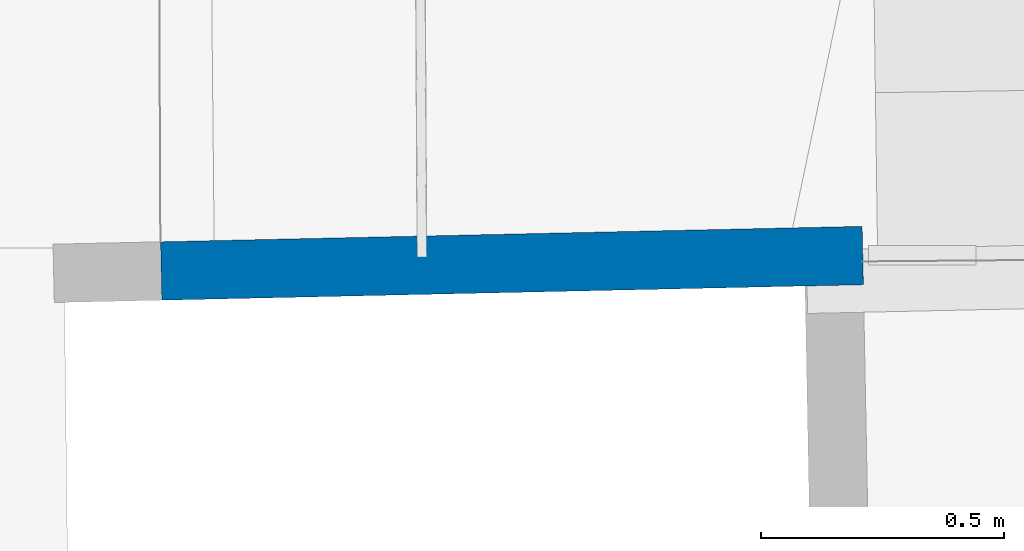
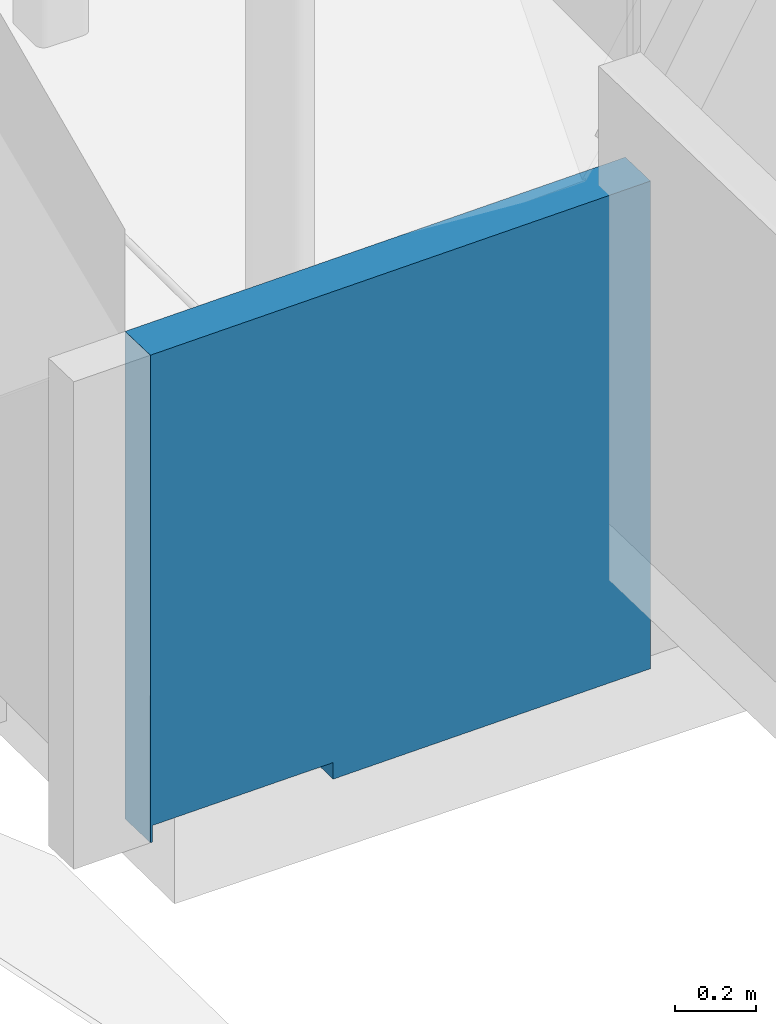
# One storey, part 21 of 39: 1 wall.
"""IFC2X3 building model written with IfcOpenShell, lengths in centimetres."""

from ifc_helpers import new_model, entity, si_unit, converted_unit, direction, frame, origin, origin_with_axes, place, context, subcontext, project, spatial, faceted_brep, material, layer, layer_set, layer_usage, type_object, element, save


model = new_model("IFC2X3")

# Units and contexts
model_context = context("Model", 3, precision=0.0001, world=origin(), true_north=direction((0.225632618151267, 0.974212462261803, 0.0)))
body_context = subcontext(model_context, "Body", "Model", "MODEL_VIEW")
ifc_project = project(units=[si_unit("LENGTHUNIT", "METRE", prefix="CENTI"), si_unit("AREAUNIT", "SQUARE_METRE", prefix="CENTI"), si_unit("VOLUMEUNIT", "CUBIC_METRE", prefix="CENTI"), converted_unit("PLANEANGLEUNIT", "DEGREE", entity("IfcRatioMeasure", 0.0174532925), si_unit("PLANEANGLEUNIT", "RADIAN"), dimensions=[0, 0, 0, 0, 0, 0, 0])], contexts=[model_context])

# Site, building, storey
site_placement = place(None, origin_with_axes())
site = spatial("IfcSite", under=ifc_project, at=site_placement, Name="Default Site", CompositionType="ELEMENT")
building_placement = place(site_placement, origin_with_axes())
building = spatial("IfcBuilding", under=site, at=building_placement, Name="Default Building", CompositionType="ELEMENT")
storey_placement = place(building_placement, frame((0.0, 0.0, 1088.91037418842), z_axis=(0.0, 0.0, 1.0), x_axis=(1.0, 0.0, 0.0)))
storey = spatial("IfcBuildingStorey", under=building, at=storey_placement, Name="Mezzanine", CompositionType="ELEMENT", Elevation=1088.91037418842)

# Wall
ifc_material = material(Name="<aucun>")
ifc_layer = layer(ifc_material, 12.0)
ifc_layer_set = layer_set([ifc_layer], Name="default")
ifc_layer_usage = layer_usage(ifc_layer_set, "AXIS2", "POSITIVE", -6.0)
wall_type = type_object("IfcWallType", Name="default 120", PredefinedType="NOTDEFINED", material=ifc_layer_set)
wall_placement = place(storey_placement, frame((238.941368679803, -356.384532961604, 4.79616346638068e-12), z_axis=(0.0, 0.0, 1.0), x_axis=(0.999756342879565, 0.0220738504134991, 0.0)))
element("IfcWall", 1, at=wall_placement, inside=storey, type_object=wall_type, material=ifc_layer_usage, Name="Enveloppe 223005", context=body_context, shape_type="Brep", body=[
    faceted_brep([(0.782553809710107, 6.00000659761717, 1.47581051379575e-05), (0.107259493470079, 6.00000659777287, 1.47581051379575e-05), (0.107259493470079, 6.00000659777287, 5.532756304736), (0.782553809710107, 6.00000659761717, 5.532756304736), (0.782553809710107, 6.00000659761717, 5.00003383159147), (0.782553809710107, 6.00000659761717, 1.99996516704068), (13.8141837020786, 6.00000036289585, 5.00003383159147), (0.782553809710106, 6.00000036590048, 5.00003383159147), (0.782553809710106, 6.00000036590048, 5.532756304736), (13.8141837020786, 6.00000036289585, 5.532756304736), (0.782553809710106, 6.00000036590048, 44.3096308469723), (13.8141837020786, 6.00000036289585, 44.3096308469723), (0.107259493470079, 6.00000659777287, 44.3096308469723), (0.782553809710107, 6.00000659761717, 44.3096308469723), (13.8141837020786, 6.00000036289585, 47.000041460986), (0.782553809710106, 6.00000036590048, 47.000041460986), (0.782553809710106, 6.00000036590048, 125.555625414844), (13.8141837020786, 6.00000036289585, 125.555625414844), (13.8141837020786, 6.00000036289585, 50.0000147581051), (0.782553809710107, 6.00000659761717, 47.000041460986), (0.107259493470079, 6.00000659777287, 47.000041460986), (0.107259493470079, 6.00000659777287, 125.555625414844), (0.782553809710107, 6.00000659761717, 125.555625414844), (0.782553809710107, 6.00000659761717, 47.999968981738), (13.8141837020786, 6.00000036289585, 130.650630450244), (0.782553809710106, 6.00000036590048, 130.650630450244), (0.782553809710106, 6.00000036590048, 141.202369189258), (13.8141837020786, 6.00000036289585, 141.202369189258), (0.782553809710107, 6.00000659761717, 130.650630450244), (0.107259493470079, 6.00000659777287, 130.650630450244), (0.107259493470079, 6.00000659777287, 141.202369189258), (0.782553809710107, 6.00000659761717, 141.202369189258), (0.107253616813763, -6.00011106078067, 1.47581051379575e-05), (0.782550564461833, -6.00011106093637, 1.47581051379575e-05), (0.782550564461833, -6.00011106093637, 4.35325191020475), (0.107253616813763, -6.00011106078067, 4.35325191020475), (0.107253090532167, -6.00013489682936, 1.47581051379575e-05), (0.782571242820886, -6.00013489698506, 1.47581051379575e-05), (0.782571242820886, -6.00013489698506, 1.99996516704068), (0.107253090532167, -6.00013489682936, 1.99996516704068), (0.782571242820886, -6.00013489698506, 4.35325191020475), (0.107253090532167, -6.00013489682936, 4.35325191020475), (0.107253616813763, -6.00011106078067, 1.99996516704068), (0.782550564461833, -6.00011106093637, 1.99996516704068), (0.782550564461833, -6.00011106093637, 5.00003383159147), (0.107253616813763, -6.00011106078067, 5.00003383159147), (0.782550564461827, -6.00013489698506, 4.35325191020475), (0.782550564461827, -6.00013489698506, 5.00003383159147), (0.107253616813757, -6.00013489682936, 5.00003383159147), (0.782550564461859, -5.99999706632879, 5.532756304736), (0.107256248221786, -5.99999706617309, 5.532756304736), (0.107253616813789, -5.99999706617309, 5.00003383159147), (0.782550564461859, -5.99999706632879, 5.00003383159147), (13.8141804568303, -5.99999706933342, 5.00003383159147), (13.8141804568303, -5.99999706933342, 5.532756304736), (13.8141804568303, -5.99999706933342, 44.3096308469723), (0.782550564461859, -5.99999706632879, 44.3096308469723), (0.107256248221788, -5.9999918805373, 5.532756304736), (0.78255056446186, -5.999991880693, 5.532756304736), (0.78255056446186, -5.999991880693, 44.3096308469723), (0.107256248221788, -5.9999918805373, 44.3096308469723), (0.782550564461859, -5.99999706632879, 47.000041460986), (13.8141804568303, -5.99999706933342, 47.000041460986), (13.8141804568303, -5.99999706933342, 50.0000147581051), (13.8141804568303, -5.99999706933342, 125.555625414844), (0.782550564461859, -5.99999706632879, 125.555625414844), (0.107256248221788, -5.9999918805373, 47.000041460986), (0.78255056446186, -5.999991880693, 47.000041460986), (0.78255056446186, -5.999991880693, 47.999968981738), (0.78255056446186, -5.999991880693, 125.555625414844), (0.107256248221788, -5.9999918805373, 125.555625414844), (0.782550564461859, -5.99999706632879, 130.650630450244), (13.8141804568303, -5.99999706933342, 130.650630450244), (13.8141804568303, -5.99999706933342, 141.202369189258), (0.782550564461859, -5.99999706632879, 141.202369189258), (0.107256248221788, -5.9999918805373, 130.650630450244), (0.78255056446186, -5.999991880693, 130.650630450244), (0.78255056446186, -5.999991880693, 141.202369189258), (0.107256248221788, -5.9999918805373, 141.202369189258), (0.782550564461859, -5.99999706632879, 1.47581051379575e-05), (0.107256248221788, -5.9999918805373, 1.47581051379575e-05), (0.10725949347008, 6.00001178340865, 1.47581051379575e-05), (0.107259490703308, -5.9999918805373, 1.47581051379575e-05), (0.107259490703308, -5.9999918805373, 1.99996516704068), (0.107259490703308, -5.9999918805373, 4.35325191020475), (0.107259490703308, -5.9999918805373, 5.00003383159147), (0.107259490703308, -5.9999918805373, 5.532756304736), (0.10725949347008, 6.00001178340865, 5.532756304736), (0.782550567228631, 6.00000659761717, 1.47581051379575e-05), (0.782550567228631, 6.00000659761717, 1.99996516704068), (0.782550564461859, -5.99999706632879, 1.99996516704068), (0.782550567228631, 6.00000659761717, 5.00003383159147), (13.8141804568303, -6.00000330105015, 5.00003383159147), (13.8141804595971, 6.00000036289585, 5.00003383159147), (13.8141804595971, 6.00000036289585, 5.532756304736), (13.8141804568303, -6.00000330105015, 5.532756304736), (13.8141804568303, -6.00000330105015, 44.3096308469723), (13.8141804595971, 6.00000036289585, 44.3096308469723), (0.10725949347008, 6.00001178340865, 44.3096308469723), (0.107259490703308, -5.9999918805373, 44.3096308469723), (13.8141804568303, -6.00000330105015, 47.000041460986), (13.8141804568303, -6.00000330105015, 125.555625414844), (13.8141836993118, -6.00000330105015, 50.0000147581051), (13.8141836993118, -6.00000330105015, 47.000041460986), (13.8141836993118, -6.00000330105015, 125.555625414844), (0.10725949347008, 6.00001178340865, 47.000041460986), (0.10725949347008, 6.00001178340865, 125.555625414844), (0.107259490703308, -5.9999918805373, 47.000041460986), (0.107259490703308, -5.9999918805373, 125.555625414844), (13.8141804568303, -6.00000330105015, 130.650630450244), (13.8141804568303, -6.00000330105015, 141.202369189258), (13.8141804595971, 6.00000036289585, 130.650630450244), (13.8141804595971, 6.00000036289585, 141.202369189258), (0.10725949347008, 6.00001178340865, 130.650630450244), (0.10725949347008, 6.00001178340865, 141.202369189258), (0.107259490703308, -5.9999918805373, 130.650630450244), (0.107259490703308, -5.9999918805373, 141.202369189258)], [[[0, 1, 2, 3, 4, 5]], [[6, 7, 8, 9]], [[9, 8, 10, 11]], [[3, 2, 12, 13]], [[14, 15, 16, 17, 18]], [[19, 20, 21, 22, 23]], [[24, 25, 26, 27]], [[28, 29, 30, 31]], [[32, 33, 34, 35]], [[36, 37, 38, 39]], [[36, 37, 40, 41]], [[42, 43, 44, 45]], [[41, 46, 47, 48]], [[49, 50, 51, 52]], [[52, 53, 54, 49]], [[49, 54, 55, 56]], [[57, 58, 59, 60]], [[61, 62, 63, 64, 65]], [[66, 67, 68, 69, 70]], [[71, 72, 73, 74]], [[75, 76, 77, 78]], [[79, 80, 81, 0]], [[81, 82, 83, 84, 85, 86, 87]], [[79, 88, 89, 90]], [[90, 89, 91, 52]], [[6, 92, 52, 4]], [[92, 93, 94, 95]], [[13, 56, 96, 11]], [[95, 94, 97, 96]], [[60, 56, 13, 98]], [[87, 86, 99, 98]], [[14, 100, 61, 19]], [[22, 65, 101, 17]], [[18, 102, 103, 14]], [[17, 104, 102, 18]], [[105, 19, 61, 66]], [[70, 65, 22, 106]], [[105, 107, 108, 106]], [[24, 109, 71, 28]], [[31, 74, 110, 27]], [[109, 111, 112, 110]], [[113, 28, 71, 75]], [[78, 74, 31, 114]], [[113, 115, 116, 114]]]),
    faceted_brep([(144.337672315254, 5.99998987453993, 1.47581051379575e-05), (52.9090739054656, 5.9999898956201, 1.47581051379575e-05), (52.9090739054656, 5.9999898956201, 1.99996516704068), (52.9090739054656, 5.9999898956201, 5.00003383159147), (52.9090739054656, 5.9999898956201, 5.532756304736), (144.337672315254, 5.99998987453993, 5.532756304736), (52.9090739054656, 6.00000549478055, 5.00003383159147), (13.8141837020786, 6.00000550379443, 5.00003383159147), (13.8141837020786, 6.00000550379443, 5.532756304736), (52.9090739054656, 6.00000549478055, 5.532756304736), (13.8141837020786, 5.99998990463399, 5.532756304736), (13.8141837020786, 5.99998990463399, 44.3096308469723), (13.8141837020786, 5.99998990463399, 47.000041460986), (144.337672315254, 5.99998987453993, 47.000041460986), (0.782553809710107, 6.00000659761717, 44.3096308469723), (0.107259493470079, 6.00000659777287, 44.3096308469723), (0.107259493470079, 6.00000659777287, 47.000041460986), (0.782553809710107, 6.00000659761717, 47.000041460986), (13.8141837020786, 6.00000036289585, 44.3096308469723), (0.782553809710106, 6.00000036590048, 44.3096308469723), (0.782553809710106, 6.00000036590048, 47.000041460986), (0.782553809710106, 6.00000036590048, 47.999968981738), (13.8141837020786, 6.00000036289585, 47.999968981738), (13.8141837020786, 6.00000036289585, 47.000041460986), (13.8141837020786, 5.99998990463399, 47.999968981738), (13.8141837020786, 5.99998990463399, 50.0000147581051), (144.337672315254, 5.99998987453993, 50.0000147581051), (13.8141837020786, 5.99998990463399, 125.555625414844), (13.8141837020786, 5.99998990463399, 128.972926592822), (144.337672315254, 5.99998987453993, 128.972926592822), (0.782553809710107, 6.00000659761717, 125.555625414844), (0.107259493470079, 6.00000659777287, 125.555625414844), (0.107259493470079, 6.00000659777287, 128.972926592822), (0.782553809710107, 6.00000659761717, 128.972926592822), (13.8141837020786, 6.00000036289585, 125.555625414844), (0.782553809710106, 6.00000036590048, 125.555625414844), (0.782553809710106, 6.00000036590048, 128.972926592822), (13.8141837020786, 6.00000036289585, 128.972926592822), (0.107259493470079, 6.00000659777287, 130.650630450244), (0.782553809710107, 6.00000659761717, 130.650630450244), (0.782553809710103, 5.99998990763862, 128.972926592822), (0.782553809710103, 5.99998990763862, 130.650630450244), (0.782553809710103, 5.99998990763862, 141.202369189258), (0.782553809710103, 5.99998990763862, 146.702018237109), (144.337672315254, 5.99998987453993, 146.702018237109), (0.782553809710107, 6.00000659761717, 141.202369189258), (0.107259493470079, 6.00000659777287, 141.202369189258), (0.107259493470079, 6.00000659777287, 146.702018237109), (0.782553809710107, 6.00000659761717, 146.702018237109), (52.7853248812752, -6.00000843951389, 1.47581051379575e-05), (144.337669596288, -6.00000846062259, 1.47581051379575e-05), (144.337669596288, -6.00000846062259, 5.532756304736), (52.7853248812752, -6.00000843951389, 5.532756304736), (52.7853248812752, -6.00000843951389, 5.00003383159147), (52.7853248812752, -6.00000843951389, 1.99996516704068), (13.8141804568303, -6.00000330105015, 5.00003383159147), (52.7853248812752, -6.0000033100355, 5.00003383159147), (52.7853248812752, -6.0000033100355, 5.532756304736), (13.8141804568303, -6.00000330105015, 5.532756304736), (144.337669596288, -6.0000033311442, 5.532756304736), (144.337669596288, -6.0000033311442, 47.000041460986), (144.323742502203, -6.00000333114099, 47.000041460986), (13.8141804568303, -6.00000330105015, 47.000041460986), (13.8141804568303, -6.00000330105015, 44.3096308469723), (0.107256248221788, -5.9999918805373, 44.3096308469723), (0.78255056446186, -5.999991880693, 44.3096308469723), (0.78255056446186, -5.999991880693, 47.000041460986), (0.107256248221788, -5.9999918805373, 47.000041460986), (0.782550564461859, -5.99999706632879, 44.3096308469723), (13.8141804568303, -5.99999706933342, 44.3096308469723), (13.8141804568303, -5.99999706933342, 47.000041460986), (13.8141804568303, -5.99999706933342, 47.999968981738), (0.782550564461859, -5.99999706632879, 47.999968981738), (0.782550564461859, -5.99999706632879, 47.000041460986), (144.323742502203, -5.99999247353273, 47.000041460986), (144.337669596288, -5.99999247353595, 47.000041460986), (144.337669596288, -5.99999247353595, 47.999968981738), (144.323742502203, -5.99999247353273, 47.999968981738), (144.337685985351, -1.27815193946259, 47.000041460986), (144.337755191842, -1.25468728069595, 47.000041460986), (144.337755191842, -1.25468728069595, 50.0000147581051), (144.337685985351, -1.27815193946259, 50.0000147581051), (144.337685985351, -1.27815193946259, 47.999968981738), (132.323691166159, -5.99998817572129, 47.999968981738), (144.323742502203, -5.99998817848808, 47.999968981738), (144.323742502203, -5.99998817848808, 50.0000147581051), (132.323691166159, -5.99998817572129, 50.0000147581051), (144.323759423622, -5.99999252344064, 50.0000147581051), (144.323759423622, -5.99999252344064, 47.999968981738), (132.323691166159, -5.99999247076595, 47.999968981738), (132.323691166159, -5.99999247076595, 50.0000147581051), (13.8141804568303, -5.99999244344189, 50.0000147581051), (13.8141804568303, -5.99999244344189, 47.999968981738), (13.8141804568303, -5.99999244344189, 47.000041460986), (144.323742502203, -5.99998817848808, 128.972926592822), (132.323691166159, -5.99998817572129, 128.972926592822), (144.323742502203, -5.99999247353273, 50.0000147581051), (144.337669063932, -1.27815188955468, 50.0000147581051), (144.337738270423, -1.25468723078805, 50.0000147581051), (144.337738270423, -1.25468723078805, 128.972926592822), (144.323742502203, -5.99999247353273, 128.972926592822), (13.8141804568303, -5.99998814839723, 128.972926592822), (13.8141804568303, -5.99998814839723, 125.555625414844), (13.8141804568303, -5.99998814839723, 50.0000147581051), (0.107256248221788, -5.9999918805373, 125.555625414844), (0.78255056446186, -5.999991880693, 125.555625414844), (0.78255056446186, -5.999991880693, 128.972926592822), (0.107256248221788, -5.9999918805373, 128.972926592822), (0.782550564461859, -5.99999706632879, 125.555625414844), (13.8141804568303, -5.99999706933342, 125.555625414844), (13.8141804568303, -5.99999706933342, 128.972926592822), (0.782550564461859, -5.99999706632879, 128.972926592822), (0.78255056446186, -5.999991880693, 130.650630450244), (0.107256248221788, -5.9999918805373, 130.650630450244), (144.323742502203, -5.99998817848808, 146.702018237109), (132.323691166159, -5.99998817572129, 146.702018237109), (144.337738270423, -1.25468723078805, 146.702018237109), (144.323742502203, -5.99999247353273, 146.702018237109), (0.782550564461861, -5.9999881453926, 146.702018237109), (0.782550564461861, -5.9999881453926, 141.202369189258), (0.782550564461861, -5.9999881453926, 130.650630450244), (0.782550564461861, -5.9999881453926, 128.972926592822), (0.107256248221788, -5.9999918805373, 141.202369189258), (0.78255056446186, -5.999991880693, 141.202369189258), (0.78255056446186, -5.999991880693, 146.702018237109), (0.107256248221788, -5.9999918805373, 146.702018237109), (144.337669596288, -5.99998995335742, 1.47581051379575e-05), (52.9090739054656, 6.00000549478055, 1.47581051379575e-05), (144.337669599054, 5.99998987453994, 1.47581051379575e-05), (144.337669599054, 5.99998987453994, 5.532756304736), (144.337669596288, -5.99998995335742, 5.532756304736), (52.909076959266, 6.00000546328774, 5.00003383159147), (52.909076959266, 6.00000546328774, 1.99996516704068), (52.909076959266, 6.00000546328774, 1.47581051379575e-05), (13.8141837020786, 6.00000036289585, 5.00003383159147), (13.8141836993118, -6.00000330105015, 5.00003383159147), (13.8141836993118, -6.00000330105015, 5.532756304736), (13.8141837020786, 6.00000036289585, 5.532756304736), (144.337669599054, 5.99998987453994, 47.000041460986), (144.337669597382, -1.2546856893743, 47.000041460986), (144.337669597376, -1.27815193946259, 47.000041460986), (144.337669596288, -5.99998995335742, 47.000041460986), (13.8141804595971, 6.00000036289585, 44.3096308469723), (13.8141804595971, 6.00000036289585, 5.532756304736), (0.10725949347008, 6.00001178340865, 44.3096308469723), (0.10725949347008, 6.00001178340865, 47.000041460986), (0.107259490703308, -5.9999918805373, 44.3096308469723), (0.107259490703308, -5.9999918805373, 47.000041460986), (13.8141804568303, -6.00000330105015, 47.999968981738), (0.782553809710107, 6.00000659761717, 47.999968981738), (0.782550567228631, 6.00000659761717, 47.999968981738), (0.782550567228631, 6.00000659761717, 47.000041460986), (144.337669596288, -5.99998995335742, 47.999968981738), (144.337669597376, -1.27815193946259, 47.999968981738), (144.337750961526, -1.25468726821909, 47.000041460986), (144.337681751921, 5.99998987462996, 47.000041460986), (144.337681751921, 5.99998987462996, 50.0000147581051), (144.337750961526, -1.25468726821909, 50.0000147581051), (13.8141836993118, -6.00000330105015, 47.000041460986), (13.8141836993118, -6.00000330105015, 50.0000147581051), (13.8141837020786, 6.00000036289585, 50.0000147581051), (144.337681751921, 5.99998987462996, 128.972926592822), (144.337750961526, -1.25468726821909, 128.972926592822), (13.8141804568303, -6.00000330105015, 125.555625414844), (13.8141804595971, 6.00000036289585, 125.555625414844), (13.8141804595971, 6.00000036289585, 50.0000147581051), (13.8141804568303, -6.00000330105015, 50.0000147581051), (0.10725949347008, 6.00001178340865, 125.555625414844), (0.107259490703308, -5.9999918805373, 125.555625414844), (0.107259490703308, -5.9999918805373, 128.972926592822), (0.10725949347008, 6.00001178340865, 128.972926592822), (0.782550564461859, -5.99999706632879, 130.650630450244), (0.10725949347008, 6.00001178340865, 130.650630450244), (0.107259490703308, -5.9999918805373, 130.650630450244), (144.337681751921, 5.99998987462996, 146.702018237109), (144.337750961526, -1.25468726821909, 146.702018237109), (0.782550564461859, -5.99999706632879, 141.202369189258), (0.782550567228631, 6.00000659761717, 141.202369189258), (0.782550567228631, 6.00000659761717, 130.650630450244), (0.10725949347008, 6.00001178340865, 141.202369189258), (0.107259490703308, -5.9999918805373, 141.202369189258), (0.107259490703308, -5.9999918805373, 146.702018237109), (0.10725949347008, 6.00001178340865, 146.702018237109), (0.107256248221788, -5.9999918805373, 146.702399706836), (0.782550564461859, -5.99999706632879, 146.702399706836), (132.323691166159, -5.99998817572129, 146.702399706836), (132.338171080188, -1.09183765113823, 146.702399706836), (144.337750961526, -1.25468726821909, 146.702399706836), (144.337672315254, 5.99998987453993, 146.702399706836), (0.782553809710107, 6.00000659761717, 146.702399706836), (0.10725949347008, 6.00001178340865, 146.702399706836), (144.323742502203, -5.99999247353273, 146.702399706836)], [[[0, 1, 2, 3, 4, 5]], [[6, 7, 8, 9]], [[5, 4, 10, 11, 12, 13]], [[14, 15, 16, 17]], [[18, 19, 20, 21, 22, 23]], [[13, 12, 24, 25, 26]], [[26, 25, 27, 28, 29]], [[30, 31, 32, 33]], [[34, 35, 36, 37]], [[33, 32, 38, 39]], [[29, 28, 40, 41, 42, 43, 44]], [[45, 46, 47, 48]], [[49, 50, 51, 52, 53, 54]], [[55, 56, 57, 58]], [[58, 57, 59, 60, 61, 62, 63]], [[64, 65, 66, 67]], [[68, 69, 70, 71, 72, 73]], [[74, 75, 76, 77]], [[78, 79, 80, 81, 82]], [[83, 84, 85, 86]], [[81, 87, 88, 82]], [[77, 89, 90, 91, 92, 93, 74]], [[86, 85, 94, 95]], [[96, 97, 98, 99, 100]], [[95, 101, 102, 103, 86]], [[104, 105, 106, 107]], [[108, 109, 110, 111]], [[107, 106, 112, 113]], [[95, 94, 114, 115]], [[100, 99, 116, 117]], [[115, 118, 119, 120, 121, 101, 95]], [[122, 123, 124, 125]], [[0, 126, 49, 127]], [[126, 128, 129, 130]], [[53, 131, 132, 54]], [[54, 132, 133, 49]], [[134, 6, 53, 55]], [[134, 135, 136, 137]], [[130, 129, 138, 139, 140, 141]], [[63, 142, 143, 58]], [[144, 14, 68, 64]], [[67, 73, 17, 145]], [[144, 146, 147, 145]], [[68, 14, 18, 63]], [[148, 22, 149, 72]], [[72, 150, 151, 73]], [[82, 77, 152]], [[141, 140, 153, 152]], [[154, 155, 156, 157]], [[23, 158, 159, 160]], [[157, 156, 161, 162]], [[163, 164, 165, 166]], [[104, 167, 30, 108]], [[167, 168, 169, 170]], [[163, 108, 30, 34]], [[113, 171, 39, 172]], [[170, 169, 173, 172]], [[162, 161, 174, 175]], [[176, 177, 178, 171]], [[179, 45, 176, 122]], [[179, 180, 181, 182]], [[183, 184, 185, 186, 187, 188, 189, 190]], [[187, 186, 185, 191]]]),
])

save(model, "model.ifc")
